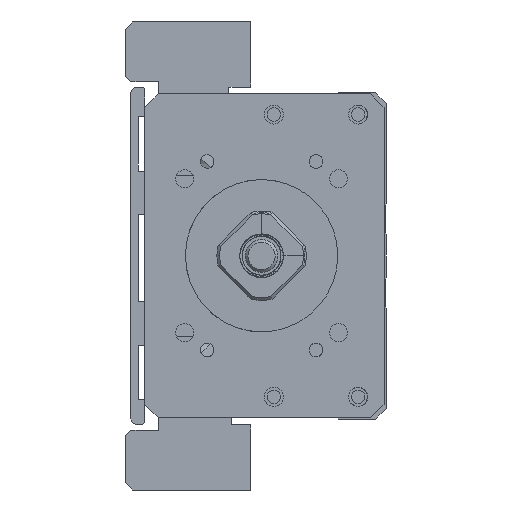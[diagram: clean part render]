
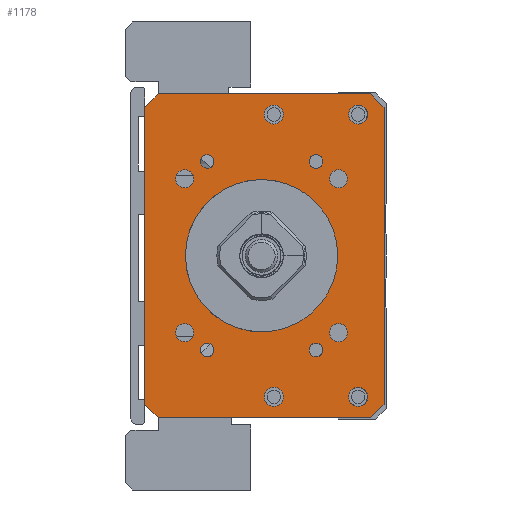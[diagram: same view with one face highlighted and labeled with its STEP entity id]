
A CAD part, left-side view. The second image highlights one B-rep face of the part: STEP entity #1178.
In plain terms, the highlighted planar face has unit normal (-1, 0, 0).
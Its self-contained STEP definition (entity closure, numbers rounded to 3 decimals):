
#1178=ADVANCED_FACE('',(#4264,#4265,#4266,#4267,#4268,#4269,#4270,#4271,
#4272,#4273,#4274,#4275,#4276,#4277),#1893,.F.);
#1893=PLANE('',#12208);
#2369=LINE('',#16817,#3322);
#2371=LINE('',#16841,#3324);
#2372=LINE('',#16843,#3325);
#2373=LINE('',#16845,#3326);
#2374=LINE('',#16847,#3327);
#2375=LINE('',#16849,#3328);
#2376=LINE('',#16851,#3329);
#2377=LINE('',#16853,#3330);
#3322=VECTOR('',#13473,1.);
#3324=VECTOR('',#13497,1.);
#3325=VECTOR('',#13498,1.);
#3326=VECTOR('',#13499,1.);
#3327=VECTOR('',#13500,1.);
#3328=VECTOR('',#13501,1.);
#3329=VECTOR('',#13502,1.);
#3330=VECTOR('',#13503,1.);
#4264=FACE_BOUND('',#4827,.T.);
#4265=FACE_BOUND('',#4828,.T.);
#4266=FACE_BOUND('',#4829,.T.);
#4267=FACE_BOUND('',#4830,.T.);
#4268=FACE_BOUND('',#4831,.T.);
#4269=FACE_BOUND('',#4832,.T.);
#4270=FACE_BOUND('',#4833,.T.);
#4271=FACE_BOUND('',#4834,.T.);
#4272=FACE_BOUND('',#4835,.T.);
#4273=FACE_BOUND('',#4836,.T.);
#4274=FACE_BOUND('',#4837,.T.);
#4275=FACE_BOUND('',#4838,.T.);
#4276=FACE_BOUND('',#4839,.T.);
#4277=FACE_BOUND('',#4840,.T.);
#4827=EDGE_LOOP('',(#5978));
#4828=EDGE_LOOP('',(#5979));
#4829=EDGE_LOOP('',(#5980));
#4830=EDGE_LOOP('',(#5981));
#4831=EDGE_LOOP('',(#5982));
#4832=EDGE_LOOP('',(#5983));
#4833=EDGE_LOOP('',(#5984));
#4834=EDGE_LOOP('',(#5985));
#4835=EDGE_LOOP('',(#5986));
#4836=EDGE_LOOP('',(#5987,#5988,#5989,#5990,#5991,#5992,#5993,#5994));
#4837=EDGE_LOOP('',(#5995));
#4838=EDGE_LOOP('',(#5996));
#4839=EDGE_LOOP('',(#5997));
#4840=EDGE_LOOP('',(#5998));
#5978=ORIENTED_EDGE('',*,*,#10220,.F.);
#5979=ORIENTED_EDGE('',*,*,#10221,.F.);
#5980=ORIENTED_EDGE('',*,*,#10222,.F.);
#5981=ORIENTED_EDGE('',*,*,#10223,.F.);
#5982=ORIENTED_EDGE('',*,*,#10224,.F.);
#5983=ORIENTED_EDGE('',*,*,#10225,.T.);
#5984=ORIENTED_EDGE('',*,*,#10226,.F.);
#5985=ORIENTED_EDGE('',*,*,#10227,.F.);
#5986=ORIENTED_EDGE('',*,*,#10228,.F.);
#5987=ORIENTED_EDGE('',*,*,#10217,.T.);
#5988=ORIENTED_EDGE('',*,*,#10229,.T.);
#5989=ORIENTED_EDGE('',*,*,#10230,.F.);
#5990=ORIENTED_EDGE('',*,*,#10231,.T.);
#5991=ORIENTED_EDGE('',*,*,#10232,.F.);
#5992=ORIENTED_EDGE('',*,*,#10233,.T.);
#5993=ORIENTED_EDGE('',*,*,#10234,.T.);
#5994=ORIENTED_EDGE('',*,*,#10235,.T.);
#5995=ORIENTED_EDGE('',*,*,#10236,.F.);
#5996=ORIENTED_EDGE('',*,*,#10237,.F.);
#5997=ORIENTED_EDGE('',*,*,#10238,.F.);
#5998=ORIENTED_EDGE('',*,*,#10197,.F.);
#9044=VERTEX_POINT('',#16756);
#9064=VERTEX_POINT('',#16816);
#9065=VERTEX_POINT('',#16818);
#9067=VERTEX_POINT('',#16824);
#9068=VERTEX_POINT('',#16826);
#9069=VERTEX_POINT('',#16828);
#9070=VERTEX_POINT('',#16830);
#9071=VERTEX_POINT('',#16832);
#9072=VERTEX_POINT('',#16834);
#9073=VERTEX_POINT('',#16836);
#9074=VERTEX_POINT('',#16838);
#9075=VERTEX_POINT('',#16840);
#9076=VERTEX_POINT('',#16842);
#9077=VERTEX_POINT('',#16844);
#9078=VERTEX_POINT('',#16846);
#9079=VERTEX_POINT('',#16848);
#9080=VERTEX_POINT('',#16850);
#9081=VERTEX_POINT('',#16852);
#9082=VERTEX_POINT('',#16855);
#9083=VERTEX_POINT('',#16857);
#9084=VERTEX_POINT('',#16859);
#10197=EDGE_CURVE('',#9044,#9044,#11734,.T.);
#10217=EDGE_CURVE('',#9065,#9064,#2369,.T.);
#10220=EDGE_CURVE('',#9067,#9067,#11743,.T.);
#10221=EDGE_CURVE('',#9068,#9068,#11744,.T.);
#10222=EDGE_CURVE('',#9069,#9069,#11745,.T.);
#10223=EDGE_CURVE('',#9070,#9070,#11746,.T.);
#10224=EDGE_CURVE('',#9071,#9071,#11747,.T.);
#10225=EDGE_CURVE('',#9072,#9072,#11748,.T.);
#10226=EDGE_CURVE('',#9073,#9073,#11749,.T.);
#10227=EDGE_CURVE('',#9074,#9074,#11750,.T.);
#10228=EDGE_CURVE('',#9075,#9075,#11751,.T.);
#10229=EDGE_CURVE('',#9064,#9076,#2371,.T.);
#10230=EDGE_CURVE('',#9077,#9076,#2372,.T.);
#10231=EDGE_CURVE('',#9077,#9078,#2373,.T.);
#10232=EDGE_CURVE('',#9079,#9078,#2374,.T.);
#10233=EDGE_CURVE('',#9079,#9080,#2375,.T.);
#10234=EDGE_CURVE('',#9080,#9081,#2376,.T.);
#10235=EDGE_CURVE('',#9081,#9065,#2377,.T.);
#10236=EDGE_CURVE('',#9082,#9082,#11752,.T.);
#10237=EDGE_CURVE('',#9083,#9083,#11753,.T.);
#10238=EDGE_CURVE('',#9084,#9084,#11754,.T.);
#11734=CIRCLE('',#12185,14.);
#11743=CIRCLE('',#12196,1.65);
#11744=CIRCLE('',#12197,1.65);
#11745=CIRCLE('',#12198,1.65);
#11746=CIRCLE('',#12199,1.65);
#11747=CIRCLE('',#12200,1.25);
#11748=CIRCLE('',#12201,1.75);
#11749=CIRCLE('',#12202,1.25);
#11750=CIRCLE('',#12203,1.75);
#11751=CIRCLE('',#12204,1.25);
#11752=CIRCLE('',#12205,1.75);
#11753=CIRCLE('',#12206,1.75);
#11754=CIRCLE('',#12207,1.25);
#12185=AXIS2_PLACEMENT_3D('',#16755,#13447,#13448);
#12196=AXIS2_PLACEMENT_3D('',#16823,#13479,#13480);
#12197=AXIS2_PLACEMENT_3D('',#16825,#13481,#13482);
#12198=AXIS2_PLACEMENT_3D('',#16827,#13483,#13484);
#12199=AXIS2_PLACEMENT_3D('',#16829,#13485,#13486);
#12200=AXIS2_PLACEMENT_3D('',#16831,#13487,#13488);
#12201=AXIS2_PLACEMENT_3D('',#16833,#13489,#13490);
#12202=AXIS2_PLACEMENT_3D('',#16835,#13491,#13492);
#12203=AXIS2_PLACEMENT_3D('',#16837,#13493,#13494);
#12204=AXIS2_PLACEMENT_3D('',#16839,#13495,#13496);
#12205=AXIS2_PLACEMENT_3D('',#16854,#13504,#13505);
#12206=AXIS2_PLACEMENT_3D('',#16856,#13506,#13507);
#12207=AXIS2_PLACEMENT_3D('',#16858,#13508,#13509);
#12208=AXIS2_PLACEMENT_3D('',#16860,#13510,#13511);
#13447=DIRECTION('',(-1.,0.,0.));
#13448=DIRECTION('',(0.,1.,0.));
#13473=DIRECTION('',(0.,0.,-1.));
#13479=DIRECTION('',(-1.,0.,0.));
#13480=DIRECTION('',(0.,0.,1.));
#13481=DIRECTION('',(-1.,0.,0.));
#13482=DIRECTION('',(0.,0.,1.));
#13483=DIRECTION('',(-1.,0.,0.));
#13484=DIRECTION('',(0.,0.,1.));
#13485=DIRECTION('',(-1.,0.,0.));
#13486=DIRECTION('',(0.,0.,1.));
#13487=DIRECTION('',(-1.,0.,0.));
#13488=DIRECTION('',(0.,1.,0.));
#13489=DIRECTION('',(1.,0.,0.));
#13490=DIRECTION('',(0.,0.,1.));
#13491=DIRECTION('',(-1.,0.,0.));
#13492=DIRECTION('',(0.,1.,0.));
#13493=DIRECTION('',(-1.,0.,0.));
#13494=DIRECTION('',(0.,0.,1.));
#13495=DIRECTION('',(-1.,0.,0.));
#13496=DIRECTION('',(0.,1.,0.));
#13497=DIRECTION('',(0.,-0.707,-0.707));
#13498=DIRECTION('',(0.,1.,0.));
#13499=DIRECTION('',(0.,-0.707,0.707));
#13500=DIRECTION('',(0.,0.,-1.));
#13501=DIRECTION('',(0.,0.707,0.707));
#13502=DIRECTION('',(0.,1.,0.));
#13503=DIRECTION('',(0.,0.707,-0.707));
#13504=DIRECTION('',(-1.,0.,0.));
#13505=DIRECTION('',(0.,0.,1.));
#13506=DIRECTION('',(-1.,0.,0.));
#13507=DIRECTION('',(0.,0.,1.));
#13508=DIRECTION('',(-1.,0.,0.));
#13509=DIRECTION('',(0.,1.,0.));
#13510=DIRECTION('',(1.,0.,0.));
#13511=DIRECTION('',(0.,1.,0.));
#16755=CARTESIAN_POINT('',(-211.,0.,-100.));
#16756=CARTESIAN_POINT('',(-211.,14.,-100.));
#16816=CARTESIAN_POINT('',(-211.,21.499,-127.25));
#16817=CARTESIAN_POINT('',(-211.,21.499,-70.25));
#16818=CARTESIAN_POINT('',(-211.,21.499,-72.75));
#16823=CARTESIAN_POINT('',(-211.,14.142,-85.858));
#16824=CARTESIAN_POINT('',(-211.,14.142,-84.208));
#16825=CARTESIAN_POINT('',(-211.,-14.142,-85.858));
#16826=CARTESIAN_POINT('',(-211.,-14.142,-84.208));
#16827=CARTESIAN_POINT('',(-211.,14.142,-114.142));
#16828=CARTESIAN_POINT('',(-211.,14.142,-112.492));
#16829=CARTESIAN_POINT('',(-211.,-14.142,-114.142));
#16830=CARTESIAN_POINT('',(-211.,-14.142,-112.492));
#16831=CARTESIAN_POINT('',(-211.,-10.,-117.321));
#16832=CARTESIAN_POINT('',(-211.,-8.75,-117.321));
#16833=CARTESIAN_POINT('',(-211.,-2.25,-125.936));
#16834=CARTESIAN_POINT('',(-211.,-2.25,-124.186));
#16835=CARTESIAN_POINT('',(-211.,10.,-82.679));
#16836=CARTESIAN_POINT('',(-211.,11.25,-82.679));
#16837=CARTESIAN_POINT('',(-211.,-2.25,-74.064));
#16838=CARTESIAN_POINT('',(-211.,-2.25,-72.314));
#16839=CARTESIAN_POINT('',(-211.,10.,-117.321));
#16840=CARTESIAN_POINT('',(-211.,11.25,-117.321));
#16841=CARTESIAN_POINT('',(-211.,18.999,-129.75));
#16842=CARTESIAN_POINT('',(-211.,18.999,-129.75));
#16843=CARTESIAN_POINT('',(-211.,-22.501,-129.75));
#16844=CARTESIAN_POINT('',(-211.,-20.001,-129.75));
#16845=CARTESIAN_POINT('',(-211.,-22.501,-127.25));
#16846=CARTESIAN_POINT('',(-211.,-22.501,-127.25));
#16847=CARTESIAN_POINT('',(-211.,-22.501,-70.25));
#16848=CARTESIAN_POINT('',(-211.,-22.501,-72.75));
#16849=CARTESIAN_POINT('',(-211.,-22.501,-72.75));
#16850=CARTESIAN_POINT('',(-211.,-20.001,-70.25));
#16851=CARTESIAN_POINT('',(-211.,-22.501,-70.25));
#16852=CARTESIAN_POINT('',(-211.,18.999,-70.25));
#16853=CARTESIAN_POINT('',(-211.,18.999,-70.25));
#16854=CARTESIAN_POINT('',(-211.,-17.75,-74.064));
#16855=CARTESIAN_POINT('',(-211.,-17.75,-72.314));
#16856=CARTESIAN_POINT('',(-211.,-17.75,-125.936));
#16857=CARTESIAN_POINT('',(-211.,-17.75,-124.186));
#16858=CARTESIAN_POINT('',(-211.,-10.,-82.679));
#16859=CARTESIAN_POINT('',(-211.,-8.75,-82.679));
#16860=CARTESIAN_POINT('',(-211.,-22.501,-70.25));
